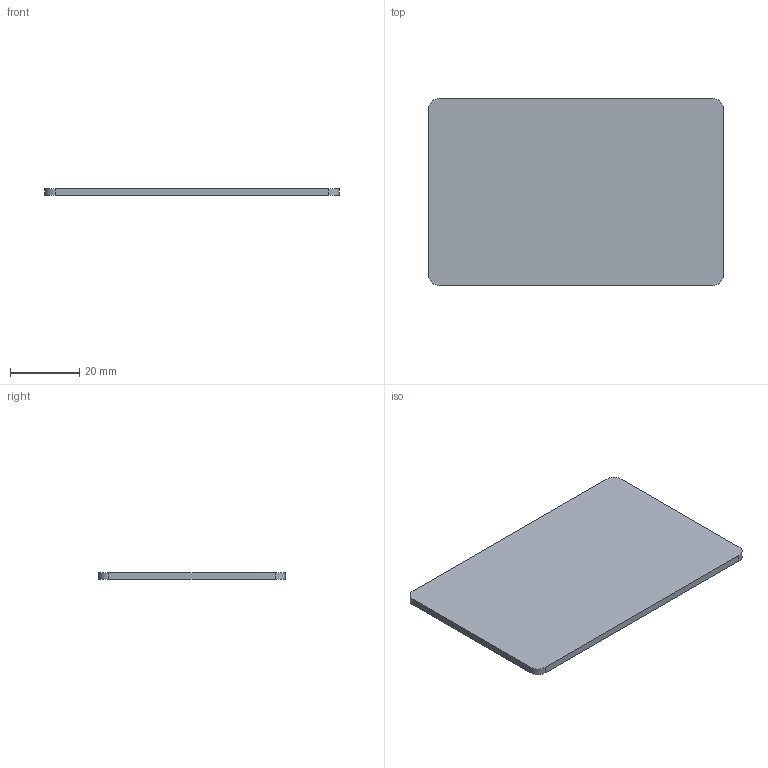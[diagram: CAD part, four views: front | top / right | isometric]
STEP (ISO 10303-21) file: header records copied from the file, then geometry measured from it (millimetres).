
FILE_DESCRIPTION(('Open CASCADE Model'),'2;1');
FILE_NAME('Open CASCADE Shape Model','2026-10-21T17:23:48',('Author'),( 'Open CASCADE'),'Open CASCADE STEP processor 7.9','Open CASCADE 7.9' ,'Unknown');
FILE_SCHEMA(('AUTOMOTIVE_DESIGN { 1 0 10303 214 1 1 1 1 }'));
Length unit declared in the file: millimetre
Products named in the file (1): Open CASCADE STEP translator 7.9 2
Bounding box: 85 x 54 x 2 mm (x, y, z)
Volume: 9164.5 mm3; surface area: 9710.2 mm2
Topology: 1 solids, 1 shells, 10 faces, 24 edges, 16 vertices
Faces by surface type: plane 6, cylinder 4
Entity records: 630 total; most frequent: CARTESIAN_POINT 123, DIRECTION 98, LINE 56, VECTOR 56, ORIENTED_EDGE 48, PCURVE 48, DEFINITIONAL_REPRESENTATION 48, EDGE_CURVE 24
